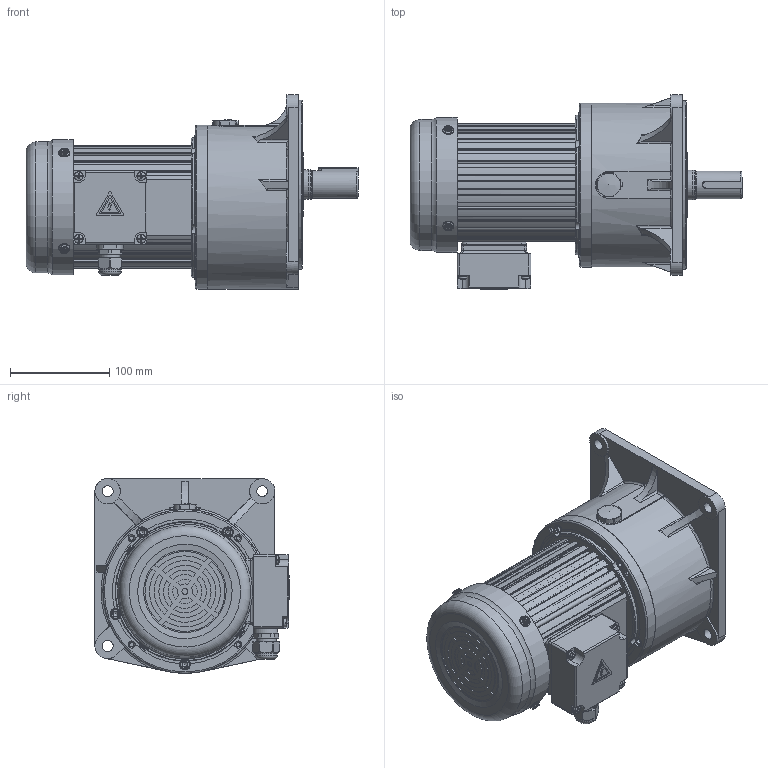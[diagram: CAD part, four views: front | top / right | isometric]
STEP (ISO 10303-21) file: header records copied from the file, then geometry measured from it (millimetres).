
FILE_DESCRIPTION(/* description */ (''),/* implementation_level */ '2;1');
FILE_NAME(/* name */ 'PST00001137_A0-小型交流减速电机-334_181.1_196-Φ28_60_K7-CV28-200-6S2-G1-LD_T1.stp',/* time_stamp */ '2025-04-23T08:17:19+08:00',/* author */ (''),/* organization */ (''),/* preprocessor_version */ 'ST-DEVELOPER v18.102',/* originating_system */ 'SIEMENS PLM Software NX 2027',/* authorisation */ '');
FILE_SCHEMA (('AP203_CONFIGURATION_CONTROLLED_3D_DESIGN_OF_MECHANICAL_PARTS_AND_ASSEMBLIES_MIM_LF { 1 0 10303 403 2 1 2}'));
Products named in the file (1): A0_objects
Bounding box: 334 x 195.28 x 196.03 mm (x, y, z)
Volume: 4607757.6 mm3; surface area: 397080.7 mm2
Topology: 7 solids, 7 shells, 1948 faces, 5007 edges, 3169 vertices
Faces by surface type: plane 995, cylinder 472, cone 226, bspline 120, torus 94, revolution 24, sphere 17
Full cylindrical faces by diameter (mm): 1 x1, 1.8 x1, 3 x2, 4 x1, 4.2 x12, 4.336 x2, 4.6 x4, 4.826 x4, 5 x6, 5.795 x5, 6 x1, 6.2 x5, 6.4 x4, 7 x8, 8.5 x4, 9 x4, 10 x5, 11 x13, 13.98 x1, 14.5 x1, 17 x2, 20 x1, 21 x1, 22.5 x1, 25.5 x2, 27.6 x1, 28 x1, 30 x2, 45 x1, 58 x1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
Entity records: 62340 total; most frequent: CARTESIAN_POINT 16806, ORIENTED_EDGE 9482, DIRECTION 9198, EDGE_CURVE 4741, AXIS2_PLACEMENT_3D 3505, VERTEX_POINT 3089, EDGE_LOOP 2249, LINE 2164
